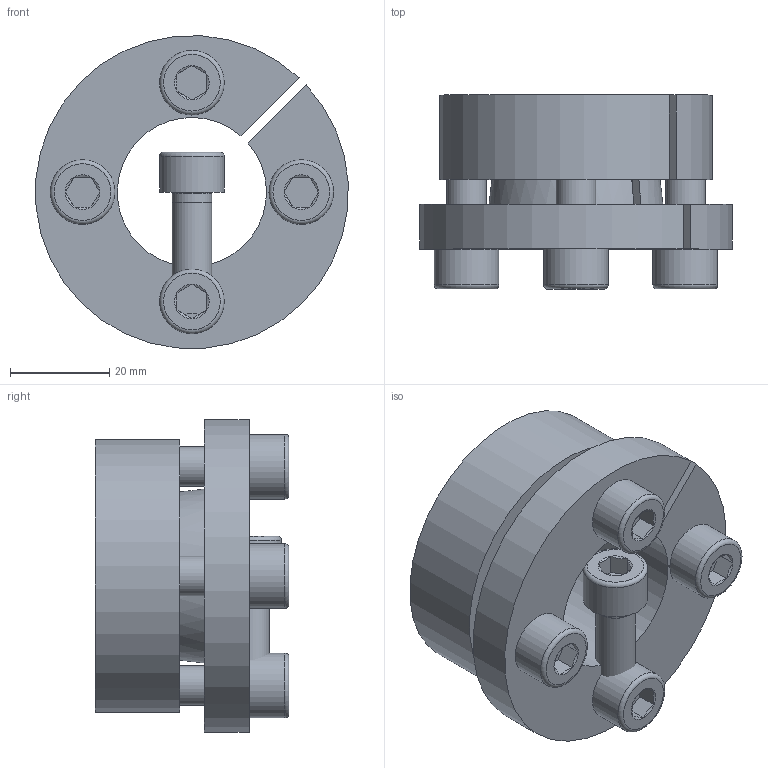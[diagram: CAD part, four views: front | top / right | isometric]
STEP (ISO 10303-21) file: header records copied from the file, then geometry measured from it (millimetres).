
FILE_DESCRIPTION( ( 'Unknown' ), '1' );
FILE_NAME( 'C:/Dokumente und Einstellungen/Sven/Desktop/15/KBS 15 - 30 x 55.stp', 'Unknown', ( 'Unknown' ), ( 'Unknown' ), 'XStep 1.0', 'Unknown', ' ' );
FILE_SCHEMA( ( 'automotive_design' ) );
Length unit declared in the file: millimetre
Products named in the file (3): Assem1; ISO EN DIN 4762 M8x25_11; KBS 15 - 30 x 55_0
Bounding box: 62.84 x 39 x 62.84 mm (x, y, z)
Volume: 102415.4 mm3; surface area: 42692.4 mm2
Topology: 7 solids, 7 shells, 165 faces, 352 edges, 213 vertices
Faces by surface type: plane 74, cylinder 42, cone 39, torus 10
Full cylindrical faces by diameter (mm): 6.647 x8, 7 x5, 8 x10, 9 x8, 13 x5
Entity records: 1458 total; most frequent: CARTESIAN_POINT 249, DIRECTION 224, ORIENTED_EDGE 170, AXIS2_PLACEMENT_3D 98, EDGE_CURVE 85, EDGE_LOOP 76, FACE_OUTER_BOUND 59, VERTEX_POINT 59
